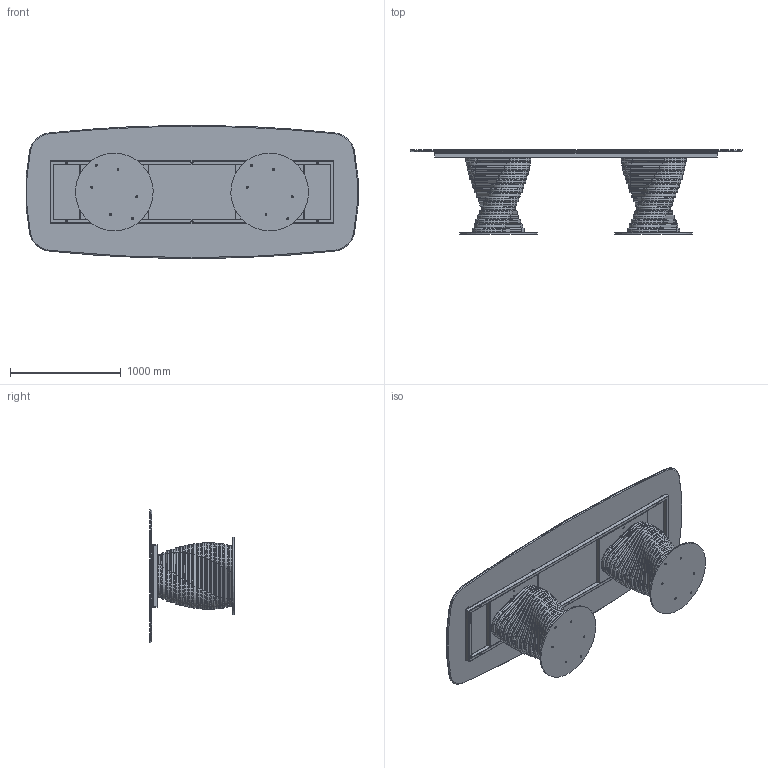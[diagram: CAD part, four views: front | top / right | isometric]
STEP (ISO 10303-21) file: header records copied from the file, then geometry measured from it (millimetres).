
FILE_DESCRIPTION (( 'STEP AP203' ), '1' );
FILE_NAME ('RO44C.STEP', '2024-08-07T13:20:31', ( '' ), ( '' ), 'SwSTEP 2.0', 'SolidWorks 2022', '' );
FILE_SCHEMA (( 'CONFIG_CONTROL_DESIGN' ));
Length unit declared in the file: millimetre
Products named in the file (15): M8xXXmm_M8x20mm; TTAV03_01-06-RING TUBO TELAIO UNIVERSALE X TAVOLI 300-340cm; TTAV03-06-TELAIO UNIVERSALE X TAVOLI 300-340cm; M8xXXmm_hex_M8X20mm; K4XCMXX-00-Piani Sagomati in ceramica_3000 x 1200; ROBX00000-00-ROTOLO BASE 17 ANELLI; RO44C; rondella M8_8X24; COLLO TELAIO UNIVERSALE TTAV03 CON FERRAMENTA_MTG TOP CRISTALLO VERNICIATO-CERAMICA; TTAV03_02-06-VASSOIO IRRIGIDIMENTO TELAIO UNIVERSALE RETTANGOLARE; ROB200000-00-PIASTRA BASE_Ø70cm; ROBX00000SUP-00-Anello rotolo SUPERIORE_Default<A macchina>; ROBX00000INF-00-Anello rotolo INFERIORE_Default<A macchina>; 434070-00-PIEDINO TPV GOMMA NERO D. 30x8max18_filo estetico; ROBX00000MED-00-Anello rotolo MEDIO_Default<A macchina>
Assembly tree (63 placements, depth 4):
  RO44C
    ROB200000-00-PIASTRA BASE_Ø70cm  x2
    COLLO TELAIO UNIVERSALE TTAV03 CON FERRAMENTA_MTG TOP CRISTALLO VERNICIATO-CERAMICA
      TTAV03-06-TELAIO UNIVERSALE X TAVOLI 300-340cm
        TTAV03_01-06-RING TUBO TELAIO UNIVERSALE X TAVOLI 300-340cm
        TTAV03_02-06-VASSOIO IRRIGIDIMENTO TELAIO UNIVERSALE RETTANGOLARE  x2
      434070-00-PIEDINO TPV GOMMA NERO D. 30x8max18_filo estetico  x8
    ROBX00000-00-ROTOLO BASE 17 ANELLI  x2
      ROBX00000INF-00-Anello rotolo INFERIORE_Default<A macchina>
      ROBX00000MED-00-Anello rotolo MEDIO_Default<A macchina>
      ROBX00000SUP-00-Anello rotolo SUPERIORE_Default<A macchina>
    M8xXXmm_hex_M8X20mm  x12
    rondella M8_8X24  x8
    M8xXXmm_M8x20mm  x8
    K4XCMXX-00-Piani Sagomati in ceramica_3000 x 1200
Bounding box: 2991.72 x 758 x 1200 mm (x, y, z)
Volume: 77144474.3 mm3; surface area: 28069659.5 mm2
Topology: 187 solids, 187 shells, 2851 faces, 6701 edges, 4178 vertices
Faces by surface type: plane 1168, cylinder 1010, torus 424, cone 241, sphere 8
Entity records: 21745 total; most frequent: CARTESIAN_POINT 4778, DIRECTION 3110, ORIENTED_EDGE 2794, EDGE_CURVE 1397, AXIS2_PLACEMENT_3D 1181, VERTEX_POINT 873, LINE 748, VECTOR 748
